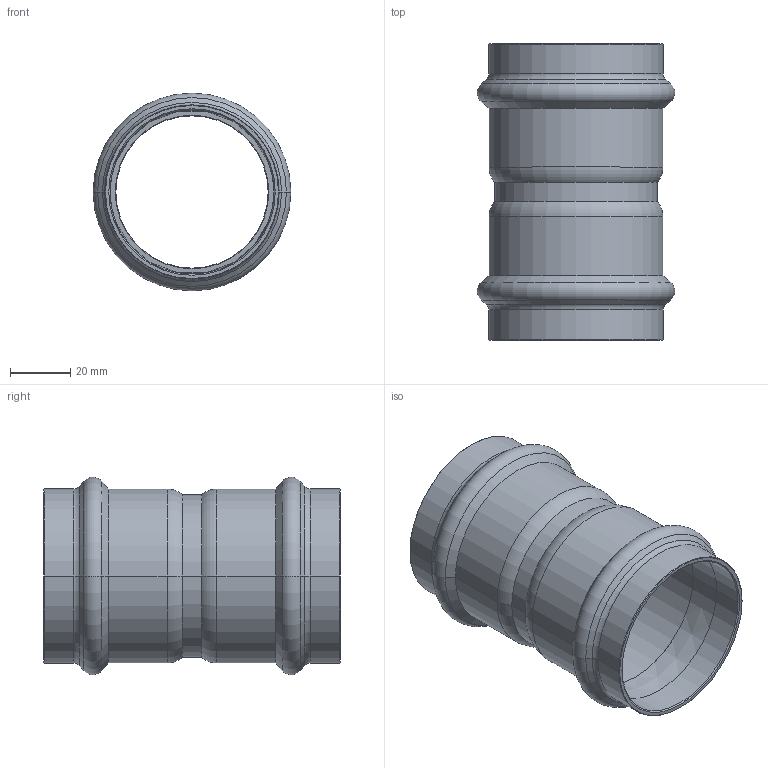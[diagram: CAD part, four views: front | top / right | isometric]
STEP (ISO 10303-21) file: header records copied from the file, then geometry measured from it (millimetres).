
FILE_DESCRIPTION(('CoCreate Modeling STEP Export'),'2;1');
FILE_NAME('8270VW54.stp','2013-01-29T12:32:33',(''),(''),'CoCreate Modeling STEP processor for AP214 (Solid Model)','CoCreate Modeling 17.00A 17-Jun-2010 (C) Parametric Technology GmbH','');
FILE_SCHEMA(('AUTOMOTIVE_DESIGN { 1 0 10303 214 1 1 1 1 }'));
Length unit declared in the file: millimetre
Products named in the file (1): 8270VW54
Bounding box: 65.68 x 98.53 x 65.68 mm (x, y, z)
Volume: 40262 mm3; surface area: 37906.2 mm2
Topology: 1 solids, 1 shells, 74 faces, 150 edges, 82 vertices
Faces by surface type: cylinder 24, torus 24, cone 20, plane 6
Entity records: 1574 total; most frequent: ORIENTED_EDGE 300, DIRECTION 254, CARTESIAN_POINT 231, EDGE_CURVE 150, AXIS2_PLACEMENT_3D 105, VERTEX_POINT 82, EDGE_LOOP 80, FACE_OUTER_BOUND 74
